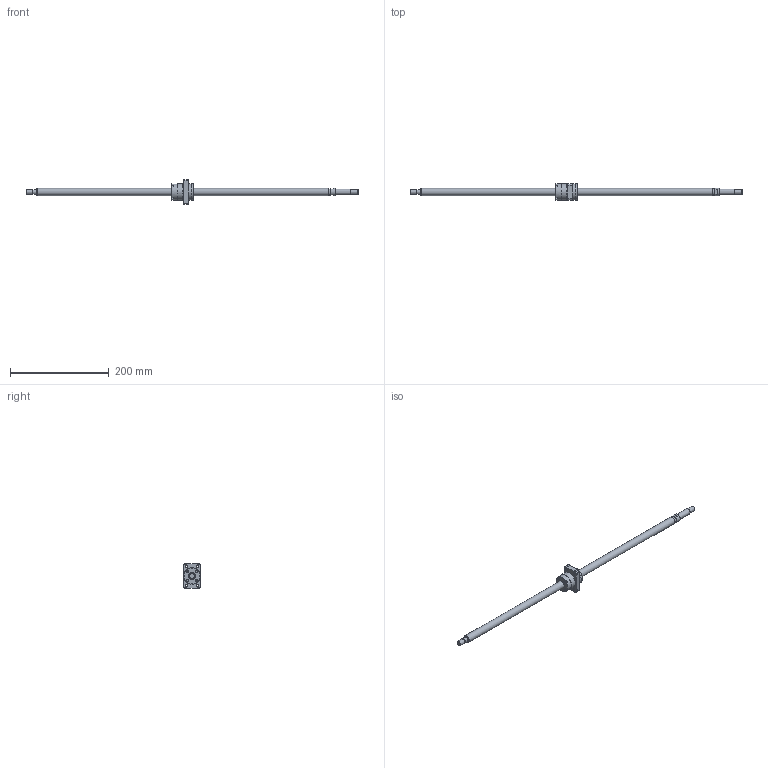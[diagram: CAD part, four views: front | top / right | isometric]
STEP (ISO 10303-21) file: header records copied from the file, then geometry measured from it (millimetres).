
FILE_DESCRIPTION(/* description */ ('STEP AP203'),/* implementation_level */ '2;1');
FILE_NAME(/* name */ 'BNK1510-5.6G0+671LC5Y(316.50)',/* time_stamp */ '2024-07-09T09:23:09+02:00',/* author */ ('License CC BY-ND 4.0'),/* organization */ ('CADENAS'),/* preprocessor_version */ 'ST-DEVELOPER v19.3',/* originating_system */ 'PARTsolutions',/* authorisation */ ' ');
FILE_SCHEMA (('CONFIG_CONTROL_DESIGN'));
Length unit declared in the file: millimetre
Products named in the file (3): BNK1510-5.6G0+671LC5Y(316.50); BNK 1510-5.6G0+671LC5Y Shaft; BNK 1510-5.6G0+671LC5Y0 Nut
Assembly tree (2 placements, depth 2):
  BNK1510-5.6G0+671LC5Y(316.50)
    BNK 1510-5.6G0+671LC5Y Shaft
    BNK 1510-5.6G0+671LC5Y0 Nut
Bounding box: 671 x 34 x 50 mm (x, y, z)
Volume: 149178.2 mm3; surface area: 42908.8 mm2
Topology: 2 solids, 2 shells, 137 faces, 313 edges, 202 vertices
Faces by surface type: plane 76, cylinder 35, cone 20, torus 6
Full cylindrical faces by diameter (mm): 5.188 x1, 5.5 x8, 9.5 x4, 9.6 x1, 10 x3, 12 x1, 13 x1, 15 x3, 30.6 x1, 33 x2, 34 x2
Entity records: 3729 total; most frequent: CARTESIAN_POINT 677, DIRECTION 632, ORIENTED_EDGE 534, EDGE_CURVE 267, AXIS2_PLACEMENT_3D 249, FACE_BOUND 211, EDGE_LOOP 210, VERTEX_POINT 198
